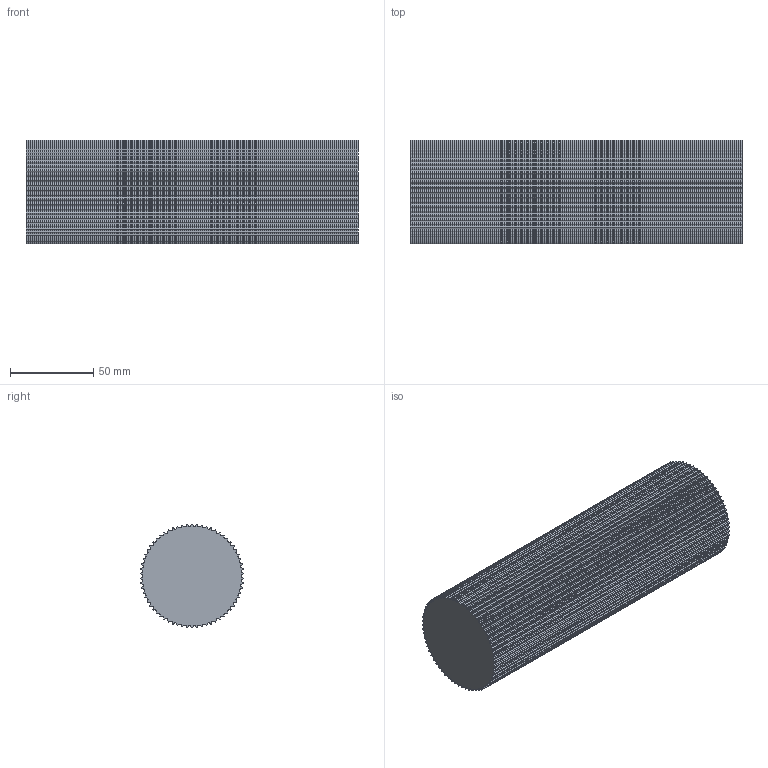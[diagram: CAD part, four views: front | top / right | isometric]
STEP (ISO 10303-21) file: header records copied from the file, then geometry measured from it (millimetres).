
FILE_DESCRIPTION( ( 'STEP AP214' ), '1' );
FILE_NAME( 'C:/Users/StangenbergN/Documents/CAD_Step/1/17096600.stp', '2019-08-23T07:12:09', ( '' ), ( '' ), ' ', 'PARTsolutions', ' ' );
FILE_SCHEMA( ( 'AUTOMOTIVE_DESIGN { 1 0 10303 214 1 1 1 1 }' ) );
Length unit declared in the file: millimetre
Products named in the file (1): _17096600
Bounding box: 200 x 62.2 x 62.26 mm (x, y, z)
Volume: 580506.4 mm3; surface area: 59409.4 mm2
Topology: 1 solids, 1 shells, 530 faces, 1584 edges, 1056 vertices
Faces by surface type: cylinder 330, plane 200
Entity records: 22364 total; most frequent: DIRECTION 3306, CARTESIAN_POINT 3171, ORIENTED_EDGE 3168, EDGE_CURVE 1584, AXIS2_PLACEMENT_3D 1191, VERTEX_POINT 1056, LINE 924, VECTOR 924
